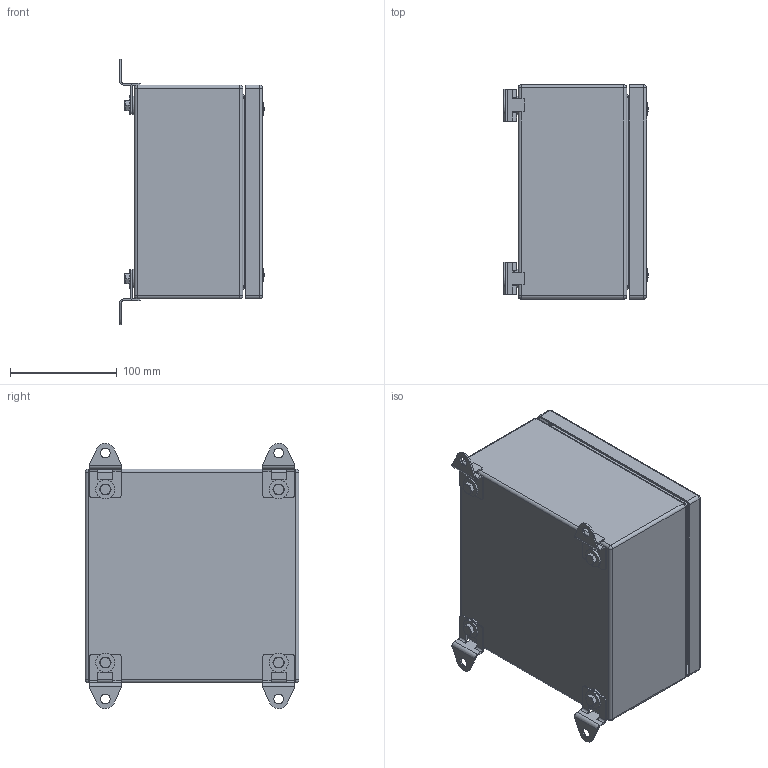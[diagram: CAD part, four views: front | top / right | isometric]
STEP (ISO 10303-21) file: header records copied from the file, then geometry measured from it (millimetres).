
FILE_DESCRIPTION(('STEP AP242'), '1');
FILE_NAME('ÊÊ Êîðîáêà êëåììíàÿ', '', ('UNSPECIFIED'), ('UNSPECIFIED'), 'C3D Converter', 'C3D Toolkit', '');
FILE_SCHEMA(('AP242_MANAGED_MODEL_BASED_3D_ENGINEERING_MIM_LF { 1 0 10303 442 1 1 4 }'));
Length unit declared in the file: millimetre
Products named in the file (22): КК; 510; 520; 521; 530; 531; 540; 541; 203-0655.61; НК.КК; 551;  202-1103.15-00530; 501
Assembly tree (53 placements, depth 4):
  КК
    510
      520
        521
        (unnamed)
        (unnamed)  x4
      530  x4
        531
        (unnamed)
    540
      541
      (unnamed)
      203-0655.61  x4
    НК.КК  x4
      551
      (unnamed)
      (unnamed)
      (unnamed)
      (unnamed)
      (unnamed)
     202-1103.15-00530  x4
    501
    (unnamed)  x4
    (unnamed)  x4
    (unnamed)  x4
    (unnamed)  x4
Bounding box: 135.19 x 200 x 248 mm (x, y, z)
Volume: 413927.9 mm3; surface area: 503480 mm2
Topology: 70 solids, 70 shells, 1114 faces, 2514 edges, 1532 vertices
Faces by surface type: plane 640, cylinder 294, cone 102, torus 38, sphere 24, bspline 16
Full cylindrical faces by diameter (mm): 4 x4, 4.134 x4, 4.917 x8, 5 x4, 5.2 x8, 5.8 x4, 6 x10, 6.4 x12, 6.5 x8, 6.6 x4, 6.647 x4, 8 x4, 9 x4, 11 x4, 11.5 x4, 12 x4, 18 x8
Entity records: 18527 total; most frequent: CARTESIAN_POINT 6819, DIRECTION 2073, ORIENTED_EDGE 1820, EDGE_CURVE 910, AXIS2_PLACEMENT_3D 777, VERTEX_POINT 587, EDGE_LOOP 567, LINE 519
